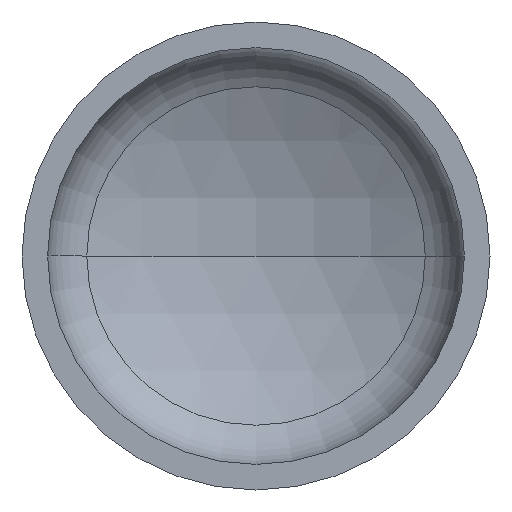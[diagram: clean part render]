
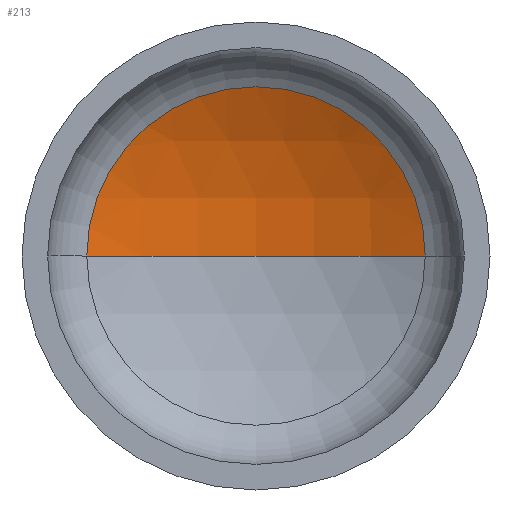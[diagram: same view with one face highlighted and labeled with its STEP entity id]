
A CAD part, front view. The second image highlights one B-rep face of the part: STEP entity #213.
In plain terms, the highlighted spherical face has radius 1520 mm.
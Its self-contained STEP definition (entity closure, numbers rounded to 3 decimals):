
#3 = AXIS2_PLACEMENT_3D ( 'NONE', #374, #283, #191 ) ;
#8 = ORIENTED_EDGE ( 'NONE', *, *, #92, .T. ) ;
#18 = DIRECTION ( 'NONE',  ( 1., 0., 0. ) ) ;
#22 = AXIS2_PLACEMENT_3D ( 'NONE', #231, #227, #179 ) ;
#37 = AXIS2_PLACEMENT_3D ( 'NONE', #378, #332, #154 ) ;
#40 = EDGE_LOOP ( 'NONE', ( #77, #66, #8 ) ) ;
#41 = AXIS2_PLACEMENT_3D ( 'NONE', #172, #189, #18 ) ;
#51 = CARTESIAN_POINT ( 'NONE',  ( -687.089, 333.68, 0. ) ) ;
#54 = VERTEX_POINT ( 'NONE', #233 ) ;
#66 = ORIENTED_EDGE ( 'NONE', *, *, #101, .T. ) ;
#77 = ORIENTED_EDGE ( 'NONE', *, *, #348, .F. ) ;
#92 = EDGE_CURVE ( 'NONE', #54, #248, #396, .T. ) ;
#101 = EDGE_CURVE ( 'NONE', #204, #54, #340, .T. ) ;
#122 = SPHERICAL_SURFACE ( 'NONE', #22, 1520. ) ;
#154 = DIRECTION ( 'NONE',  ( -1., 0., 0. ) ) ;
#172 = CARTESIAN_POINT ( 'NONE',  ( 0., 333.68, 0. ) ) ;
#179 = DIRECTION ( 'NONE',  ( -1., 0., 0. ) ) ;
#189 = DIRECTION ( 'NONE',  ( 0., -1., 0. ) ) ;
#191 = DIRECTION ( 'NONE',  ( 1., 0., 0. ) ) ;
#204 = VERTEX_POINT ( 'NONE', #272 ) ;
#213 = ADVANCED_FACE ( 'NONE', ( #260 ), #122, .F. ) ;
#227 = DIRECTION ( 'NONE',  ( 0., 0., -1. ) ) ;
#231 = CARTESIAN_POINT ( 'NONE',  ( 0., -1022.162, 0. ) ) ;
#233 = CARTESIAN_POINT ( 'NONE',  ( 687.089, 333.68, 0. ) ) ;
#248 = VERTEX_POINT ( 'NONE', #51 ) ;
#260 = FACE_OUTER_BOUND ( 'NONE', #40, .T. ) ;
#272 = CARTESIAN_POINT ( 'NONE',  ( 0., 497.838, 0. ) ) ;
#283 = DIRECTION ( 'NONE',  ( 0., 0., 1. ) ) ;
#332 = DIRECTION ( 'NONE',  ( 0., 0., -1. ) ) ;
#340 = CIRCLE ( 'NONE', #37, 1520. ) ;
#348 = EDGE_CURVE ( 'NONE', #204, #248, #366, .T. ) ;
#366 = CIRCLE ( 'NONE', #3, 1520. ) ;
#374 = CARTESIAN_POINT ( 'NONE',  ( 0., -1022.162, 0. ) ) ;
#378 = CARTESIAN_POINT ( 'NONE',  ( 0., -1022.162, 0. ) ) ;
#396 = CIRCLE ( 'NONE', #41, 687.089 ) ;
